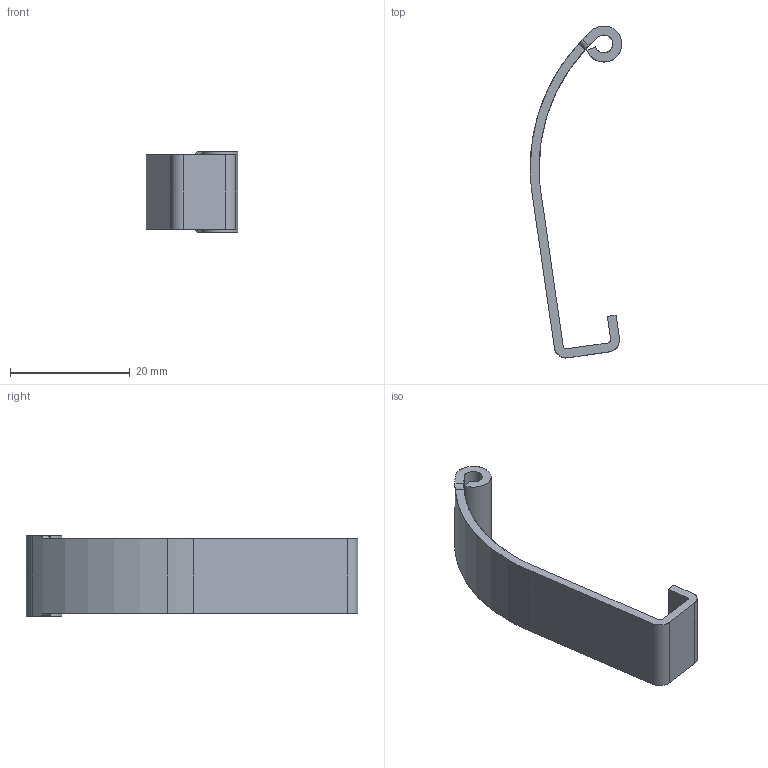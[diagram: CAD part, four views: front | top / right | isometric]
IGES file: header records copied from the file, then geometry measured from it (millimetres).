
Start section: SolidWorks IGES FILE using analytic representation for surfaces
Global section: file name: C:\Documents and Settings\brechard\Bureau\GE 61\61.030.00.IGS; native system: SolidWorks 2001Plus by SolidWorks Corporation; preprocessor: Version 5.3; author: brechard; date: 050126.103318; units: millimetre
Bounding box: 15.29 x 55.42 x 13.5 mm (x, y, z)
Surface area: 2343.9 mm2 (no closed solid volume)
Topology: 0 solids, 0 shells, 26 faces, 324 edges, 324 vertices
Faces by surface type: bspline 14, revolution 12
